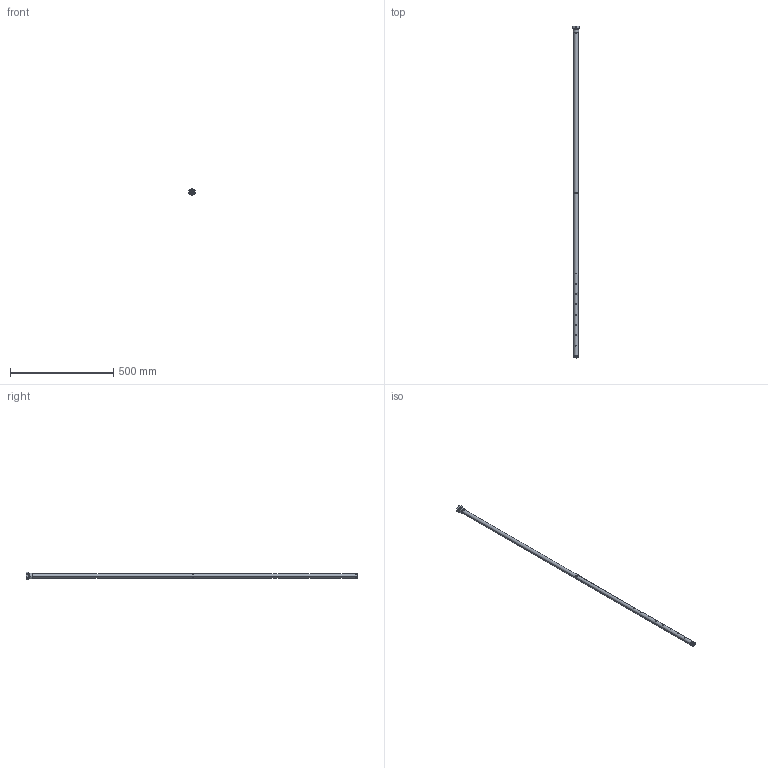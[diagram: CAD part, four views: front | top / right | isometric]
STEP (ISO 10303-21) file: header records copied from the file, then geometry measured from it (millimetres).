
FILE_DESCRIPTION( ( '' ), '1' );
FILE_NAME( '//expscmdclustefs.cadenas.external/client_exchange/iodir/jobs/output/wkb55448090_no0/STEP/E43221_2_03.stp', '2013-03-12T08:56:47', ( '' ), ( '' ), ' ', ' ', ' ' );
FILE_SCHEMA( ( 'CONFIG_CONTROL_DESIGN' ) );
Length unit declared in the file: millimetre
Products named in the file (1): 1
Bounding box: 32 x 1609.1 x 34.98 mm (x, y, z)
Volume: 105359.6 mm3; surface area: 195037 mm2
Topology: 1 solids, 1 shells, 193 faces, 563 edges, 361 vertices
Faces by surface type: cylinder 128, plane 25, torus 24, cone 16
Entity records: 10300 total; most frequent: CARTESIAN_POINT 5166, ORIENTED_EDGE 1126, DIRECTION 1010, EDGE_CURVE 563, AXIS2_PLACEMENT_3D 421, VERTEX_POINT 361, EDGE_LOOP 244, CIRCLE 227
